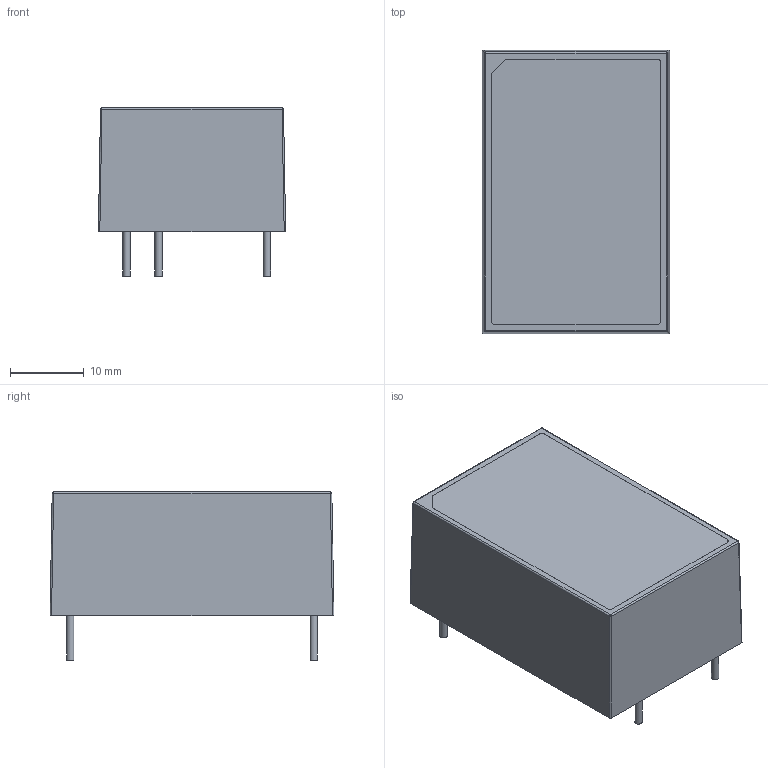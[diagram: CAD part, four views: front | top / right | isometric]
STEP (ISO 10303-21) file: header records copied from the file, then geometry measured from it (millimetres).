
FILE_DESCRIPTION(/* description */ (''),/* implementation_level */ '2;1');
FILE_NAME(/* name */ 'C:\Users\Calliope\Desktop\轉檔暫存用\AMF-07.stp',/* time_stamp */ '2024-03-01T18:01:39+08:00',/* author */ ('Calliope'),/* organization */ (''),/* preprocessor_version */ 'ST-DEVELOPER v16.1',/* originating_system */ 'Autodesk Inventor 2016',/* authorisation */ '');
FILE_SCHEMA (('AUTOMOTIVE_DESIGN { 1 0 10303 214 3 1 1 }'));
Length unit declared in the file: millimetre
Products named in the file (1): AMF-07
Bounding box: 25.4 x 38.5 x 22.8 mm (x, y, z)
Volume: 16124.4 mm3; surface area: 6092.1 mm2
Topology: 2 solids, 2 shells, 58 faces, 132 edges, 84 vertices
Faces by surface type: cylinder 27, plane 27, sphere 4
Full cylindrical faces by diameter (mm): 1 x4, 1.1 x4
Entity records: 1633 total; most frequent: DIRECTION 296, CARTESIAN_POINT 267, ORIENTED_EDGE 248, EDGE_CURVE 124, AXIS2_PLACEMENT_3D 113, VERTEX_POINT 84, EDGE_LOOP 80, LINE 70
